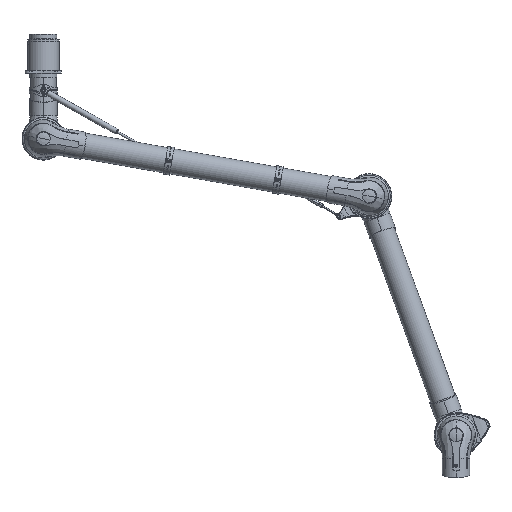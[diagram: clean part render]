
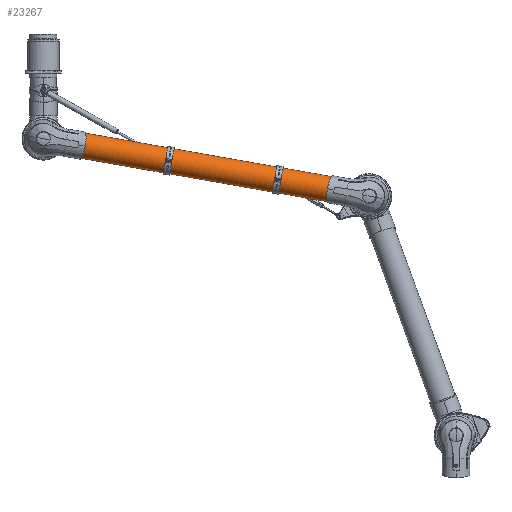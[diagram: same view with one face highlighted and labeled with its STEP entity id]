
A CAD part, top view. The second image highlights one B-rep face of the part: STEP entity #23267.
In plain terms, the highlighted cylindrical face has radius 50 mm (diameter 100 mm), a partial arc.
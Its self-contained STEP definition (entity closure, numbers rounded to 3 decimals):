
#23180=CARTESIAN_POINT('',(0.,0.,0.));
#23181=DIRECTION('',(1.,0.,0.));
#23182=DIRECTION('',(0.,1.,0.));
#23183=AXIS2_PLACEMENT_3D('',#23180,#23181,#23182);
#23188=DIRECTION('',(-1.,0.,0.));
#23189=VECTOR('',#23188,1120.);
#23190=CARTESIAN_POINT('',(0.,50.,0.));
#23191=LINE('',#23190,#23189);
#23195=DIRECTION('',(-1.,0.,0.));
#23196=VECTOR('',#23195,1120.);
#23197=CARTESIAN_POINT('',(0.,-50.,0.));
#23198=LINE('',#23197,#23196);
#23218=CARTESIAN_POINT('',(-1120.,0.,0.));
#23219=DIRECTION('',(1.,0.,0.));
#23220=DIRECTION('',(0.,1.,0.));
#23221=AXIS2_PLACEMENT_3D('',#23218,#23219,#23220);
#23226=CARTESIAN_POINT('',(0.,50.,0.));
#23227=CARTESIAN_POINT('',(-1120.,50.,0.));
#23228=VERTEX_POINT('',#23226);
#23229=VERTEX_POINT('',#23227);
#23230=CARTESIAN_POINT('',(0.,-50.,0.));
#23231=CARTESIAN_POINT('',(-1120.,-50.,0.));
#23232=VERTEX_POINT('',#23230);
#23233=VERTEX_POINT('',#23231);
#23253=CARTESIAN_POINT('',(-1176.,0.,0.));
#23254=DIRECTION('',(1.,0.,0.));
#23255=DIRECTION('',(0.,-1.,0.));
#23256=AXIS2_PLACEMENT_3D('',#23253,#23254,#23255);
#23257=CYLINDRICAL_SURFACE('',#23256,50.);
#23259=ORIENTED_EDGE('',*,*,#23258,.F.);
#23260=ORIENTED_EDGE('',*,*,#23239,.T.);
#23262=ORIENTED_EDGE('',*,*,#23261,.T.);
#23264=ORIENTED_EDGE('',*,*,#23263,.F.);
#23265=EDGE_LOOP('',(#23259,#23260,#23262,#23264));
#23266=FACE_OUTER_BOUND('',#23265,.F.);
#23184=CIRCLE('',#23183,50.);
#23222=CIRCLE('',#23221,50.);
#23239=EDGE_CURVE('',#23228,#23232,#23184,.T.);
#23258=EDGE_CURVE('',#23228,#23229,#23191,.T.);
#23261=EDGE_CURVE('',#23232,#23233,#23198,.T.);
#23263=EDGE_CURVE('',#23229,#23233,#23222,.T.);
#23267=ADVANCED_FACE('',(#23266),#23257,.T.);
